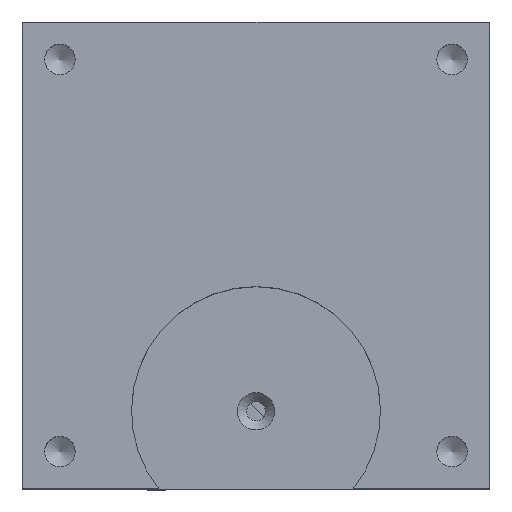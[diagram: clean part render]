
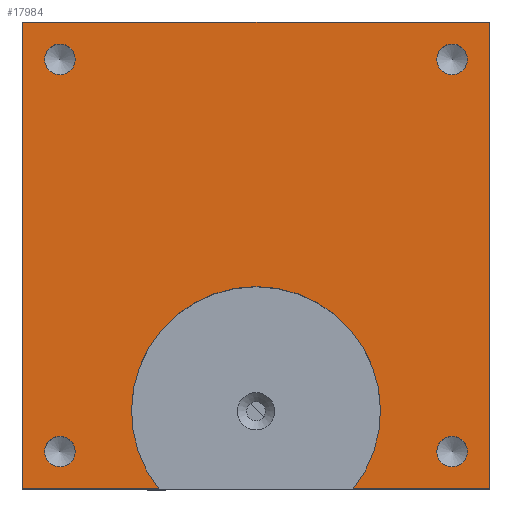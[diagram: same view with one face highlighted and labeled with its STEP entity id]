
A CAD part, top view. The second image highlights one B-rep face of the part: STEP entity #17984.
In plain terms, the highlighted planar face has unit normal (0, 0, 1).
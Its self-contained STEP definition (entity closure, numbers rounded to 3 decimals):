
#16105=CARTESIAN_POINT('',(15.612,37.5,40.6));
#16106=VERTEX_POINT('',#16105);
#16113=CARTESIAN_POINT('',(37.5,37.5,40.6));
#16114=VERTEX_POINT('',#16113);
#16115=CARTESIAN_POINT('',(15.612,37.5,40.6));
#16116=DIRECTION('',(1.0,0.0,0.0));
#16117=VECTOR('',#16116,21.888);
#16118=LINE('',#16115,#16117);
#16119=EDGE_CURVE('',#16106,#16114,#16118,.T.);
#16137=CARTESIAN_POINT('',(-37.5,37.5,40.6));
#16138=VERTEX_POINT('',#16137);
#16145=CARTESIAN_POINT('',(-15.612,37.5,40.6));
#16146=VERTEX_POINT('',#16145);
#16147=CARTESIAN_POINT('',(-37.5,37.5,40.6));
#16148=DIRECTION('',(1.0,0.0,0.0));
#16149=VECTOR('',#16148,21.888);
#16150=LINE('',#16147,#16149);
#16151=EDGE_CURVE('',#16138,#16146,#16150,.T.);
#17582=CARTESIAN_POINT('',(-37.5,-37.5,40.6));
#17583=VERTEX_POINT('',#17582);
#17584=CARTESIAN_POINT('',(-37.5,-37.5,40.6));
#17585=DIRECTION('',(0.0,1.0,0.0));
#17586=VECTOR('',#17585,75.0);
#17587=LINE('',#17584,#17586);
#17588=EDGE_CURVE('',#17583,#16138,#17587,.T.);
#17905=CARTESIAN_POINT('',(0.0,25.0,40.6));
#17906=DIRECTION('',(0.0,0.0,-1.0));
#17907=DIRECTION('',(-1.0,0.0,0.0));
#17908=AXIS2_PLACEMENT_3D('',#17905,#17906,#17907);
#17909=CIRCLE('',#17908,20.0);
#17910=EDGE_CURVE('',#16106,#16146,#17909,.T.);
#17915=CARTESIAN_POINT('',(0.,0.,40.6));
#17916=DIRECTION('',(0.0,0.0,1.0));
#17917=DIRECTION('',(1.0,0.0,0.0));
#17918=AXIS2_PLACEMENT_3D('',#17915,#17916,#17917);
#17919=PLANE('',#17918);
#17920=ORIENTED_EDGE('',*,*,#17910,.T.);
#17921=ORIENTED_EDGE('',*,*,#16151,.F.);
#17922=ORIENTED_EDGE('',*,*,#17588,.F.);
#17923=CARTESIAN_POINT('',(37.5,-37.5,40.6));
#17924=VERTEX_POINT('',#17923);
#17925=CARTESIAN_POINT('',(37.5,-37.5,40.6));
#17926=DIRECTION('',(-1.0,0.0,0.0));
#17927=VECTOR('',#17926,75.0);
#17928=LINE('',#17925,#17927);
#17929=EDGE_CURVE('',#17924,#17583,#17928,.T.);
#17930=ORIENTED_EDGE('',*,*,#17929,.F.);
#17931=CARTESIAN_POINT('',(37.5,37.5,40.6));
#17932=DIRECTION('',(0.0,-1.0,0.0));
#17933=VECTOR('',#17932,75.);
#17934=LINE('',#17931,#17933);
#17935=EDGE_CURVE('',#16114,#17924,#17934,.T.);
#17936=ORIENTED_EDGE('',*,*,#17935,.F.);
#17937=ORIENTED_EDGE('',*,*,#16119,.F.);
#17938=EDGE_LOOP('',(#17920,#17921,#17922,#17930,#17936,#17937));
#17939=FACE_OUTER_BOUND('',#17938,.T.);
#17940=CARTESIAN_POINT('',(-29.042,-31.5,40.6));
#17941=VERTEX_POINT('',#17940);
#17942=CARTESIAN_POINT('',(-31.5,-31.5,40.6));
#17943=DIRECTION('',(0.0,0.0,-1.0));
#17944=DIRECTION('',(1.0,0.0,0.0));
#17945=AXIS2_PLACEMENT_3D('',#17942,#17943,#17944);
#17946=CIRCLE('',#17945,2.459);
#17947=EDGE_CURVE('',#17941,#17941,#17946,.T.);
#17948=ORIENTED_EDGE('',*,*,#17947,.T.);
#17949=EDGE_LOOP('',(#17948));
#17950=FACE_BOUND('',#17949,.T.);
#17951=CARTESIAN_POINT('',(33.959,31.5,40.6));
#17952=VERTEX_POINT('',#17951);
#17953=CARTESIAN_POINT('',(31.5,31.5,40.6));
#17954=DIRECTION('',(0.0,0.0,-1.0));
#17955=DIRECTION('',(1.0,0.0,0.0));
#17956=AXIS2_PLACEMENT_3D('',#17953,#17954,#17955);
#17957=CIRCLE('',#17956,2.459);
#17958=EDGE_CURVE('',#17952,#17952,#17957,.T.);
#17959=ORIENTED_EDGE('',*,*,#17958,.T.);
#17960=EDGE_LOOP('',(#17959));
#17961=FACE_BOUND('',#17960,.T.);
#17962=CARTESIAN_POINT('',(-29.042,31.5,40.6));
#17963=VERTEX_POINT('',#17962);
#17964=CARTESIAN_POINT('',(-31.5,31.5,40.6));
#17965=DIRECTION('',(0.0,0.0,-1.0));
#17966=DIRECTION('',(1.0,0.0,0.0));
#17967=AXIS2_PLACEMENT_3D('',#17964,#17965,#17966);
#17968=CIRCLE('',#17967,2.459);
#17969=EDGE_CURVE('',#17963,#17963,#17968,.T.);
#17970=ORIENTED_EDGE('',*,*,#17969,.T.);
#17971=EDGE_LOOP('',(#17970));
#17972=FACE_BOUND('',#17971,.T.);
#17973=CARTESIAN_POINT('',(33.959,-31.5,40.6));
#17974=VERTEX_POINT('',#17973);
#17975=CARTESIAN_POINT('',(31.5,-31.5,40.6));
#17976=DIRECTION('',(0.0,0.0,-1.0));
#17977=DIRECTION('',(1.0,0.0,0.0));
#17978=AXIS2_PLACEMENT_3D('',#17975,#17976,#17977);
#17979=CIRCLE('',#17978,2.459);
#17980=EDGE_CURVE('',#17974,#17974,#17979,.T.);
#17981=ORIENTED_EDGE('',*,*,#17980,.T.);
#17982=EDGE_LOOP('',(#17981));
#17983=FACE_BOUND('',#17982,.T.);
#17984=ADVANCED_FACE('',(#17939,#17950,#17961,#17972,#17983),#17919,.T.);
